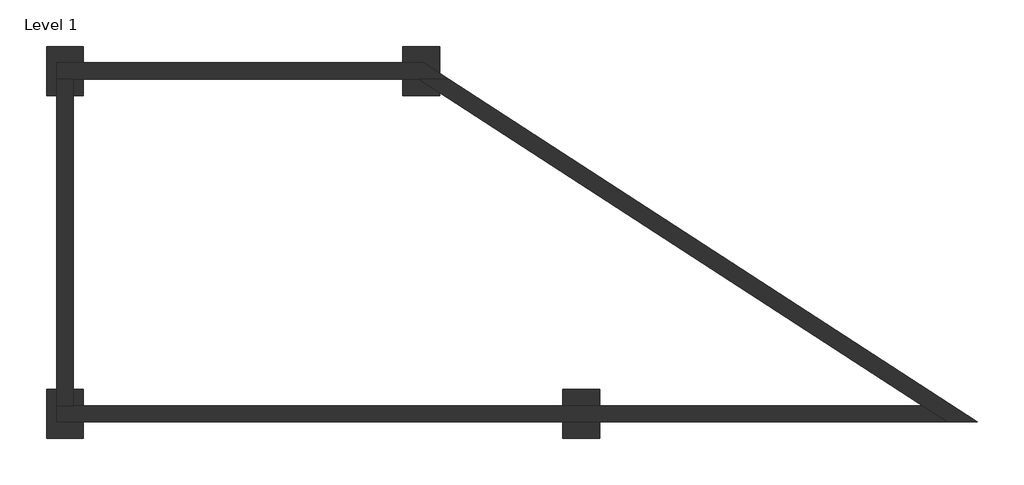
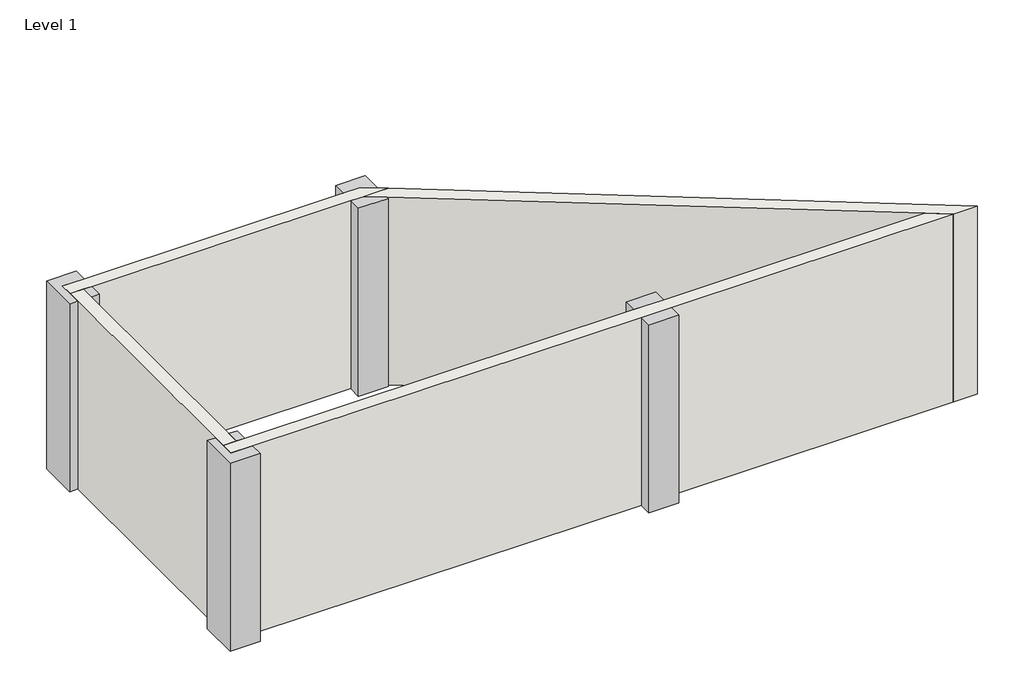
# One storey: 4 columns, 4 walls.
"""IFC4 building model written with IfcOpenShell, lengths in millimetres."""

import ifcopenshell
import ifcopenshell.guid

model = None  # the IFC model being written
_history = None  # IfcOwnerHistory: only IFC2X3 demands one
_inside = {}  # id of a spatial element -> (the spatial element, [elements in it])
_under = {}  # id of a project, library or spatial element -> (it, [spatial elements below it])
_declared = {}  # id of a project -> (the project, [libraries it declares])
_typed = {}  # id of a type object -> (the type object, [elements of that type])
_made_of = {}  # id of a material, layer set ... -> (it, [elements and type objects made of it])


def new_model(schema):
    """Start an empty IFC model of exactly this schema.

    Asked for "IFC4X3", IfcOpenShell would pick the latest addendum, in which some entities
    have other attributes; the version numbers below select the first issue.
    IFC2X3 requires an IfcOwnerHistory on every rooted entity: one is made here for all.
    """
    global model, _history
    if schema == "IFC4X3":
        model = ifcopenshell.file(schema_version=(4, 3, 0, 0))
    else:
        model = ifcopenshell.file(schema=schema)
    _inside.clear()
    _under.clear()
    _declared.clear()
    _typed.clear()
    _made_of.clear()
    _history = None
    if model.schema == "IFC2X3":
        org = make("IfcOrganization", Name="unknown")
        user = make(
            "IfcPersonAndOrganization",
            ThePerson=make("IfcPerson", FamilyName="unknown"),
            TheOrganization=org,
        )
        app = make(
            "IfcApplication",
            ApplicationDeveloper=org,
            Version="unknown",
            ApplicationFullName="unknown",
            ApplicationIdentifier="unknown",
        )
        _history = make(
            "IfcOwnerHistory",
            OwningUser=user,
            OwningApplication=app,
            ChangeAction="ADDED",
            CreationDate=0,
        )
    return model


def make(cls, **values):
    """One entity of the class cls with the attributes given. An attribute that is None is left unset."""
    return model.create_entity(
        cls, **{name: value for name, value in values.items() if value is not None}
    )


def rooted(cls, **values):
    """An entity with a GlobalId (a new one), such as an element, a storey or a relation."""
    return make(cls, GlobalId=ifcopenshell.guid.new(), OwnerHistory=_history, **values)


def si_unit(unit_type, name, prefix=None):
    """IfcSIUnit, for example si_unit("LENGTHUNIT", "METRE", prefix="MILLI")."""
    return make("IfcSIUnit", UnitType=unit_type, Prefix=prefix, Name=name)


def assignment(units):
    """IfcUnitAssignment: the units of a project."""
    return None if units is None else make("IfcUnitAssignment", Units=units)


def point(xyz):
    """IfcCartesianPoint."""
    return None if xyz is None else make("IfcCartesianPoint", Coordinates=xyz)


def direction(xyz):
    """IfcDirection."""
    return None if xyz is None else make("IfcDirection", DirectionRatios=xyz)


def frame(location, z_axis=None, x_axis=None):
    """IfcAxis2Placement3D, a coordinate frame: its origin and axes. An axis left out is left unset."""
    return make(
        "IfcAxis2Placement3D",
        Location=point(location),
        Axis=direction(z_axis),
        RefDirection=direction(x_axis),
    )


def origin():
    """The frame at (0, 0, 0) with its axes left unset."""
    return frame((0.0, 0.0, 0.0))


def origin_with_axes():
    """The frame at (0, 0, 0) with the z axis (0, 0, 1) and the x axis (1, 0, 0) written out."""
    return frame((0.0, 0.0, 0.0), z_axis=(0.0, 0.0, 1.0), x_axis=(1.0, 0.0, 0.0))


def place(relative_to, where):
    """IfcLocalPlacement: puts the frame where relative to a parent placement (None: the world)."""
    return make(
        "IfcLocalPlacement", PlacementRelTo=relative_to, RelativePlacement=where
    )


def context(
    kind, dimensions, precision=None, world=None, true_north=None, identifier=None
):
    """IfcGeometricRepresentationContext, for example the 3D "Model" context."""
    return make(
        "IfcGeometricRepresentationContext",
        ContextIdentifier=identifier,
        ContextType=kind,
        CoordinateSpaceDimension=dimensions,
        Precision=precision,
        WorldCoordinateSystem=world,
        TrueNorth=true_north,
    )


def project(units=None, contexts=None):
    """IfcProject with its units and contexts."""
    return rooted(
        "IfcProject",
        Name="project",
        RepresentationContexts=contexts,
        UnitsInContext=assignment(units),
    )


def spatial(cls, under=None, at=None, **own):
    """A site, building, storey or space (cls), placed at a placement, below another one or the project."""
    s = rooted(cls, ObjectPlacement=at, **own)
    if under is not None:
        _under.setdefault(under.id(), (under, []))[1].append(s)
    return s


def polyline(points):
    """IfcPolyline through the points."""
    return make("IfcPolyline", Points=[point(p) for p in points])


def outline(outer, holes=None, kind="AREA"):
    """IfcArbitraryClosedProfileDef: a profile drawn as a closed curve; with holes, ...WithVoids."""
    if holes is None:
        return make("IfcArbitraryClosedProfileDef", ProfileType=kind, OuterCurve=outer)
    return make(
        "IfcArbitraryProfileDefWithVoids",
        ProfileType=kind,
        OuterCurve=outer,
        InnerCurves=holes,
    )


def extrude(swept, where, along, depth):
    """IfcExtrudedAreaSolid: the profile swept, set in the frame where, extruded along a direction by depth."""
    return make(
        "IfcExtrudedAreaSolid",
        SweptArea=swept,
        Position=where,
        ExtrudedDirection=direction(along),
        Depth=depth,
    )


def faces_of(points, faces, orient=None, outer=None):
    """IfcFace entities. A face is a list of loops; a loop is a list of indices into points, from 0.

    orient and outer hold one flag for each loop. By default every Orientation is true, the
    first loop of a face is its IfcFaceOuterBound and the others are IfcFaceBound.
    """
    made = []
    for i, loops in enumerate(faces):
        bounds = []
        for j, loop in enumerate(loops):
            is_outer = j == 0 if outer is None else outer[i][j]
            bounds.append(
                make(
                    "IfcFaceOuterBound" if is_outer else "IfcFaceBound",
                    Bound=make("IfcPolyLoop", Polygon=[points[k] for k in loop]),
                    Orientation=True if orient is None else orient[i][j],
                )
            )
        made.append(make("IfcFace", Bounds=bounds))
    return made


def faceted_brep(points, faces, orient=None, outer=None, voids=None):
    """IfcFacetedBrep: a solid bounded by flat faces; with voids (closed shells), ...WithVoids."""
    shared = [point(p) for p in points]
    hull = make("IfcClosedShell", CfsFaces=faces_of(shared, faces, orient, outer))
    if voids is None:
        return make("IfcFacetedBrep", Outer=hull)
    return make(
        "IfcFacetedBrepWithVoids",
        Outer=hull,
        Voids=[
            make(cls, CfsFaces=faces_of(shared, fs, o, b)) for cls, fs, o, b in voids
        ],
    )


def shape(context_of_items, identifier, shape_type, items):
    """IfcShapeRepresentation: the items that make up one representation, for example the "Body"."""
    return make(
        "IfcShapeRepresentation",
        ContextOfItems=context_of_items,
        RepresentationIdentifier=identifier,
        RepresentationType=shape_type,
        Items=items,
    )


def made_of(thing, what):
    """Note that an element or type object is made of a material, layer set ...; save() writes the relation."""
    if what is not None:
        _made_of.setdefault(what.id(), (what, []))[1].append(thing)
    return thing


def element(
    cls,
    number,
    at=None,
    inside=None,
    cuts=None,
    type_object=None,
    material=None,
    context=None,
    identifier="Body",
    shape_type=None,
    held_by="IfcProductDefinitionShape",
    body=None,
    shapes=None,
    **own,
):
    """One element of the class cls, such as IfcWall. Its Tag is "e" and its number.

    at: its placement. inside: the storey or other place that contains it. cuts: it is an
    opening in that element (IfcRelVoidsElement). A single representation is given by context,
    identifier, shape_type and body (its items); several are given by shapes. held_by: the class
    of the entity that holds the representations. save() writes the other relations.
    """
    e = rooted(cls, Tag="e%d" % number, ObjectPlacement=at, **own)
    if body is not None:
        shapes = [shape(context, identifier, shape_type, body)]
    if shapes is not None:
        e.Representation = make(held_by, Representations=shapes)
    if inside is not None:
        _inside.setdefault(inside.id(), (inside, []))[1].append(e)
    if cuts is not None:
        rooted(
            "IfcRelVoidsElement", RelatingBuildingElement=cuts, RelatedOpeningElement=e
        )
    if type_object is not None:
        _typed.setdefault(type_object.id(), (type_object, []))[1].append(e)
    return made_of(e, material)


def aggregate(whole, parts):
    """IfcRelAggregates: a whole, such as a stair, and the parts it consists of."""
    return rooted("IfcRelAggregates", RelatingObject=whole, RelatedObjects=parts)


def save(model, path):
    """Write the relations noted so far, then the file.

    IfcRelAggregates (storeys below a building ...), IfcRelContainedInSpatialStructure (elements
    in a storey), IfcRelDefinesByType, IfcRelAssociatesMaterial and IfcRelDeclares: one each for
    every whole, place, type object, material and project.
    """
    for whole, parts in _under.values():
        aggregate(whole, parts)
    for where, things in _inside.values():
        rooted(
            "IfcRelContainedInSpatialStructure",
            RelatedElements=things,
            RelatingStructure=where,
        )
    for kind, things in _typed.values():
        rooted("IfcRelDefinesByType", RelatedObjects=things, RelatingType=kind)
    for what, things in _made_of.values():
        rooted("IfcRelAssociatesMaterial", RelatedObjects=things, RelatingMaterial=what)
    for by, libraries in _declared.values():
        rooted("IfcRelDeclares", RelatingContext=by, RelatedDefinitions=libraries)
    model.write(path)


model = new_model("IFC4")

# Units and contexts
model_context = context("Model", 3, world=origin())
ifc_project = project(units=[si_unit("LENGTHUNIT", "METRE", prefix="MILLI")], contexts=[model_context])

# Site, building, storey
site = spatial("IfcSite", under=ifc_project)
building = spatial("IfcBuilding", under=site)
storey = spatial("IfcBuildingStorey", under=building, Name="Level 1", Elevation=0.0)

# Columns
placement = place(None, origin())
element("IfcColumn", 1, ObjectType="Concrete-Rectangular-Column : 18 x 24", at=placement, inside=storey, context=model_context, shape_type="Brep", body=[
    faceted_brep([(-12581.4036402, 17159.1921416, 0.0), (-12581.4036402, 17768.7921416, 0.0), (-12124.2036402, 17768.7921416, 0.0), (-12124.2036402, 17565.5921416, 0.0), (-12454.4036402, 17565.5921416, 0.0), (-12454.4036402, 17362.3921416, 0.0), (-12454.4036402, 17159.1921416, 0.0), (-12581.4036402, 17159.1921416, 3048.0), (-12454.4036402, 17159.1921416, 3048.0), (-12581.4036402, 17768.7921416, 3048.0), (-12124.2036402, 17768.7921416, 3048.0), (-12124.2036402, 17565.5921416, 3048.0), (-12454.4036402, 17565.5921416, 3048.0), (-12454.4036402, 17362.3921416, 3048.0)], [[[0, 1, 2, 3, 4, 5, 6]], [[7, 0, 6, 8]], [[1, 0, 7, 9]], [[2, 1, 9, 10]], [[4, 3, 11, 12]], [[2, 10, 11, 3]], [[4, 12, 13, 8, 6, 5]], [[9, 7, 8, 13, 12, 11, 10]]]),
    faceted_brep([(-12124.2036402, 17159.1921416, 3048.0), (-12124.2036402, 17159.1921416, 0.0), (-12124.2036402, 17362.3921416, 0.0), (-12124.2036402, 17362.3921416, 3048.0), (-12251.2036402, 17362.3921416, 3048.0), (-12251.2036402, 17159.1921416, 3048.0), (-12251.2036402, 17362.3921416, 0.0), (-12251.2036402, 17159.1921416, 0.0)], [[[0, 1, 2, 3]], [[0, 3, 4, 5]], [[3, 2, 6, 4]], [[6, 7, 5, 4]], [[2, 1, 7, 6]], [[1, 0, 5, 7]]]),
])
element("IfcColumn", 2, ObjectType="Concrete-Rectangular-Column : 18 x 24", at=placement, inside=storey, context=model_context, shape_type="Brep", body=[
    faceted_brep([(-12124.2036402, 13501.5921416, 0.0), (-12124.2036402, 13298.3921416, 0.0), (-12251.2036402, 13298.3921416, 0.0), (-12251.2036402, 13501.5921416, 0.0), (-12124.2036402, 13298.3921416, 3048.0), (-12124.2036402, 13501.5921416, 3048.0), (-12251.2036402, 13501.5921416, 3048.0), (-12251.2036402, 13298.3921416, 3048.0)], [[[0, 1, 2, 3]], [[4, 5, 6, 7]], [[1, 4, 7, 2]], [[0, 5, 4, 1]], [[3, 2, 7, 6]], [[5, 0, 3, 6]]]),
    faceted_brep([(-12124.2036402, 12891.9921416, 3048.0), (-12124.2036402, 12891.9921416, 0.0), (-12124.2036402, 13095.1921416, 0.0), (-12124.2036402, 13095.1921416, 3048.0), (-12581.4036402, 12891.9921416, 0.0), (-12581.4036402, 12891.9921416, 3048.0), (-12581.4036402, 13501.5921416, 0.0), (-12581.4036402, 13501.5921416, 3048.0), (-12454.4036402, 13501.5921416, 3048.0), (-12454.4036402, 13501.5921416, 0.0), (-12454.4036402, 13095.1921416, 0.0), (-12454.4036402, 13095.1921416, 3048.0), (-12454.4036402, 13298.3921416, 0.0), (-12454.4036402, 13298.3921416, 3048.0)], [[[0, 1, 2, 3]], [[4, 1, 0, 5]], [[6, 4, 5, 7]], [[6, 7, 8, 9]], [[2, 10, 11, 3]], [[11, 10, 12, 9, 8, 13]], [[1, 4, 6, 9, 12, 10, 2]], [[5, 0, 3, 11, 13, 8, 7]]]),
])
element("IfcColumn", 3, ObjectType="Concrete-Rectangular-Column : 18 x 24", at=placement, inside=storey, context=model_context, shape_type="SweptSolid", body=[
    extrude(outline(polyline([(-8151.4926856, 17768.7921416), (-7694.2926856, 17768.7921416), (-7694.2926856, 17436.6816763), (-7892.7973945, 17565.5921416), (-8151.4926856, 17565.5921416), (-8151.4926856, 17768.7921416)])), origin_with_axes(), (0.0, 0.0, 1.0), 3048.0),
    extrude(outline(polyline([(-7694.2926856, 17159.1921416), (-8151.4926856, 17159.1921416), (-8151.4926856, 17362.3921416), (-7952.9879767, 17362.3921416), (-7694.2926856, 17194.3934552), (-7694.2926856, 17159.1921416)])), origin_with_axes(), (0.0, 0.0, 1.0), 3048.0),
])
element("IfcColumn", 4, ObjectType="Concrete-Rectangular-Column : 18 x 24", at=placement, inside=storey, context=model_context, shape_type="SweptSolid", body=[
    extrude(outline(polyline([(-6161.6646467, 13501.5921416), (-5704.4646467, 13501.5921416), (-5704.4646467, 13298.3921416), (-6161.6646467, 13298.3921416), (-6161.6646467, 13501.5921416)])), origin_with_axes(), (0.0, 0.0, 1.0), 3048.0),
    extrude(outline(polyline([(-5704.4646467, 12891.9921416), (-6161.6646467, 12891.9921416), (-6161.6646467, 13095.1921416), (-5704.4646467, 13095.1921416), (-5704.4646467, 12891.9921416)])), origin_with_axes(), (0.0, 0.0, 1.0), 3048.0),
])

# Walls
element("IfcWall", 5, ObjectType="Generic - 8\"", at=placement, inside=storey, context=model_context, shape_type="Brep", body=[
    faceted_brep([(-12454.4036402, 17362.3921416, 0.0), (-12251.2036402, 17362.3921416, 0.0), (-12124.2036402, 17362.3921416, 0.0), (-8151.4926856, 17362.3921416, 0.0), (-7952.9879767, 17362.3921416, 0.0), (-7579.8968339, 17362.3921416, 0.0), (-7579.8968339, 17362.3921416, 3048.0), (-7952.9879767, 17362.3921416, 3048.0), (-8151.4926856, 17362.3921416, 3048.0), (-12124.2036402, 17362.3921416, 3048.0), (-12251.2036402, 17362.3921416, 3048.0), (-12454.4036402, 17362.3921416, 3048.0), (-12454.4036402, 17565.5921416, 0.0), (-12454.4036402, 17565.5921416, 3048.0), (-12124.2036402, 17565.5921416, 3048.0), (-8151.4926856, 17565.5921416, 3048.0), (-7892.7973945, 17565.5921416, 3048.0), (-7892.7973945, 17565.5921416, 0.0), (-8151.4926856, 17565.5921416, 0.0), (-12124.2036402, 17565.5921416, 0.0), (-7694.2926856, 17436.6816763, 0.0), (-7694.2926856, 17436.6816763, 3048.0)], [[[0, 1, 2, 3, 4, 5, 6, 7, 8, 9, 10, 11]], [[12, 13, 14, 15, 16, 17, 18, 19]], [[5, 4, 3, 2, 1, 0, 12, 19, 18, 17, 20]], [[11, 10, 9, 8, 7, 6, 21, 16, 15, 14, 13]], [[6, 5, 20, 17, 16, 21]], [[0, 11, 13, 12]]]),
])
element("IfcWall", 6, ObjectType="Generic - 8\"", at=placement, inside=storey, context=model_context, shape_type="Brep", body=[
    faceted_brep([(-7952.9879767, 17362.3921416, 0.0), (-7694.2926856, 17194.3934552, 0.0), (-1694.9767638, 13298.3921416, 0.0), (-1382.0762031, 13095.1921416, 0.0), (-1382.0762031, 13095.1921416, 3048.0), (-1694.9767638, 13298.3921416, 3048.0), (-7694.2926856, 17194.3934552, 3048.0), (-7952.9879767, 17362.3921416, 3048.0), (-7579.8968339, 17362.3921416, 0.0), (-7579.8968339, 17362.3921416, 3048.0), (-1008.9850603, 13095.1921416, 3048.0), (-1008.9850603, 13095.1921416, 0.0)], [[[0, 1, 2, 3, 4, 5, 6, 7]], [[8, 9, 10, 11]], [[3, 2, 1, 0, 8, 11]], [[7, 6, 5, 4, 10, 9]], [[0, 7, 9, 8]], [[4, 3, 11, 10]]]),
])
element("IfcWall", 7, ObjectType="Generic - 8\"", at=placement, inside=storey, context=model_context, shape_type="Brep", body=[
    faceted_brep([(-1694.9767638, 13298.3921416, 0.0), (-5704.4646467, 13298.3921416, 0.0), (-6161.6646467, 13298.3921416, 0.0), (-12124.2036402, 13298.3921416, 0.0), (-12251.2036402, 13298.3921416, 0.0), (-12454.4036402, 13298.3921416, 0.0), (-12454.4036402, 13298.3921416, 3048.0), (-12251.2036402, 13298.3921416, 3048.0), (-12124.2036402, 13298.3921416, 3048.0), (-6161.6646467, 13298.3921416, 3048.0), (-5704.4646467, 13298.3921416, 3048.0), (-1694.9767638, 13298.3921416, 3048.0), (-1382.0762031, 13095.1921416, 0.0), (-1382.0762031, 13095.1921416, 3048.0), (-5704.4646467, 13095.1921416, 3048.0), (-6161.6646467, 13095.1921416, 3048.0), (-12124.2036402, 13095.1921416, 3048.0), (-12454.4036402, 13095.1921416, 3048.0), (-12454.4036402, 13095.1921416, 0.0), (-12124.2036402, 13095.1921416, 0.0), (-6161.6646467, 13095.1921416, 0.0), (-5704.4646467, 13095.1921416, 0.0)], [[[0, 1, 2, 3, 4, 5, 6, 7, 8, 9, 10, 11]], [[12, 13, 14, 15, 16, 17, 18, 19, 20, 21]], [[5, 4, 3, 2, 1, 0, 12, 21, 20, 19, 18]], [[11, 10, 9, 8, 7, 6, 17, 16, 15, 14, 13]], [[0, 11, 13, 12]], [[6, 5, 18, 17]]]),
])
element("IfcWall", 8, ObjectType="Generic - 8\"", at=placement, inside=storey, context=model_context, shape_type="Brep", body=[
    faceted_brep([(-12251.2036402, 13298.3921416, 0.0), (-12251.2036402, 13501.5921416, 0.0), (-12251.2036402, 17159.1921416, 0.0), (-12251.2036402, 17362.3921416, 0.0), (-12251.2036402, 17362.3921416, 3048.0), (-12251.2036402, 17159.1921416, 3048.0), (-12251.2036402, 13501.5921416, 3048.0), (-12251.2036402, 13298.3921416, 3048.0), (-12454.4036402, 13298.3921416, 0.0), (-12454.4036402, 13298.3921416, 3048.0), (-12454.4036402, 13501.5921416, 3048.0), (-12454.4036402, 17159.1921416, 3048.0), (-12454.4036402, 17362.3921416, 3048.0), (-12454.4036402, 17362.3921416, 0.0), (-12454.4036402, 17159.1921416, 0.0), (-12454.4036402, 13501.5921416, 0.0)], [[[0, 1, 2, 3, 4, 5, 6, 7]], [[8, 9, 10, 11, 12, 13, 14, 15]], [[3, 2, 1, 0, 8, 15, 14, 13]], [[7, 6, 5, 4, 12, 11, 10, 9]], [[4, 3, 13, 12]], [[0, 7, 9, 8]]]),
])

save(model, "model.ifc")
